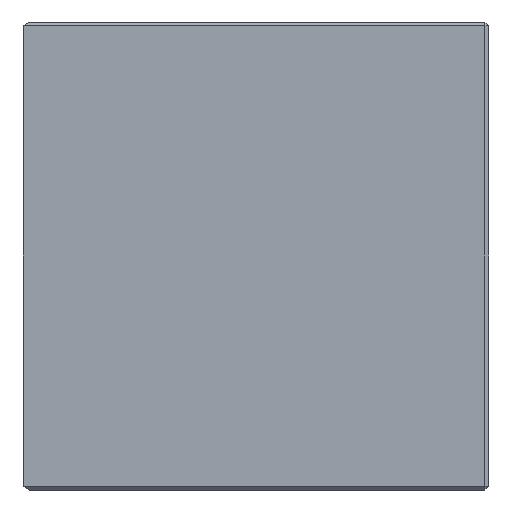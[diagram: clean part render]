
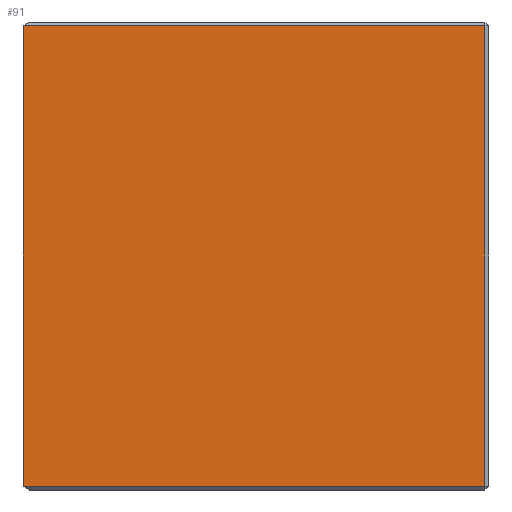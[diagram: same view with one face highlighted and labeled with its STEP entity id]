
A CAD part, left-side view. The second image highlights one B-rep face of the part: STEP entity #91.
In plain terms, the highlighted planar face has unit normal (-1, 0, 0).
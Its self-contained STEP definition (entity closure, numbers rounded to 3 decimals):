
#14 = VERTEX_POINT ( 'NONE', #152 ) ;
#24 = EDGE_CURVE ( 'NONE', #59, #14, #236, .T. ) ;
#43 = EDGE_CURVE ( 'NONE', #109, #59, #217, .T. ) ;
#59 = VERTEX_POINT ( 'NONE', #204 ) ;
#60 = ORIENTED_EDGE ( 'NONE', *, *, #457, .T. ) ;
#61 = ORIENTED_EDGE ( 'NONE', *, *, #43, .T. ) ;
#64 = EDGE_LOOP ( 'NONE', ( #61, #94, #60, #75 ) ) ;
#75 = ORIENTED_EDGE ( 'NONE', *, *, #85, .T. ) ;
#85 = EDGE_CURVE ( 'NONE', #452, #109, #143, .T. ) ;
#91 = ADVANCED_FACE ( 'NONE', ( #393 ), #348, .F. ) ;
#94 = ORIENTED_EDGE ( 'NONE', *, *, #24, .T. ) ;
#109 = VERTEX_POINT ( 'NONE', #337 ) ;
#143 = LINE ( 'NONE', #193, #181 ) ;
#152 = CARTESIAN_POINT ( 'NONE',  ( -12.5, 12.359, -12.3 ) ) ;
#168 = DIRECTION ( 'NONE',  ( 0., 0., 1. ) ) ;
#181 = VECTOR ( 'NONE', #168, 1000. ) ;
#193 = CARTESIAN_POINT ( 'NONE',  ( -12.5, -12.3, 12.5 ) ) ;
#204 = CARTESIAN_POINT ( 'NONE',  ( -12.5, 12.359, 12.3 ) ) ;
#215 = DIRECTION ( 'NONE',  ( 0., 1., 0. ) ) ;
#216 = VECTOR ( 'NONE', #215, 1000. ) ;
#217 = LINE ( 'NONE', #222, #216 ) ;
#222 = CARTESIAN_POINT ( 'NONE',  ( -12.5, 12.5, 12.3 ) ) ;
#223 = VECTOR ( 'NONE', #277, 1000. ) ;
#224 = CARTESIAN_POINT ( 'NONE',  ( -12.5, 12.359, 12.5 ) ) ;
#236 = LINE ( 'NONE', #224, #223 ) ;
#277 = DIRECTION ( 'NONE',  ( 0., 0., -1. ) ) ;
#326 = DIRECTION ( 'NONE',  ( 0., -1., 0. ) ) ;
#327 = VECTOR ( 'NONE', #326, 1000. ) ;
#333 = CARTESIAN_POINT ( 'NONE',  ( -12.5, 12.5, -12.3 ) ) ;
#334 = LINE ( 'NONE', #333, #327 ) ;
#337 = CARTESIAN_POINT ( 'NONE',  ( -12.5, -12.3, 12.3 ) ) ;
#348 = PLANE ( 'NONE',  #382 ) ;
#349 = DIRECTION ( 'NONE',  ( 0., 1., 0. ) ) ;
#350 = DIRECTION ( 'NONE',  ( 1., 0., 0. ) ) ;
#351 = CARTESIAN_POINT ( 'NONE',  ( -12.5, 12.5, 12.5 ) ) ;
#366 = CARTESIAN_POINT ( 'NONE',  ( -12.5, -12.3, -12.3 ) ) ;
#382 = AXIS2_PLACEMENT_3D ( 'NONE', #351, #350, #349 ) ;
#393 = FACE_OUTER_BOUND ( 'NONE', #64, .T. ) ;
#452 = VERTEX_POINT ( 'NONE', #366 ) ;
#457 = EDGE_CURVE ( 'NONE', #14, #452, #334, .T. ) ;
